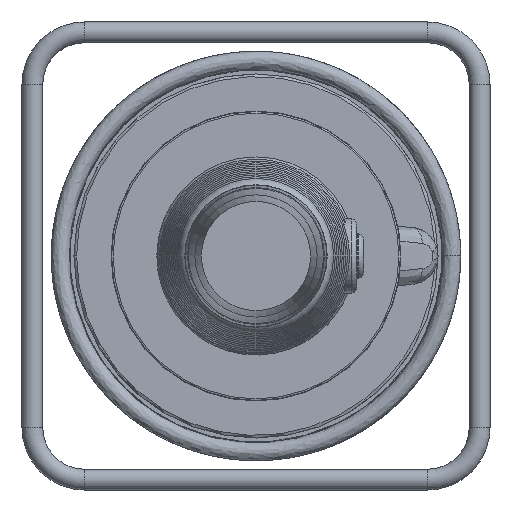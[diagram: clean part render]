
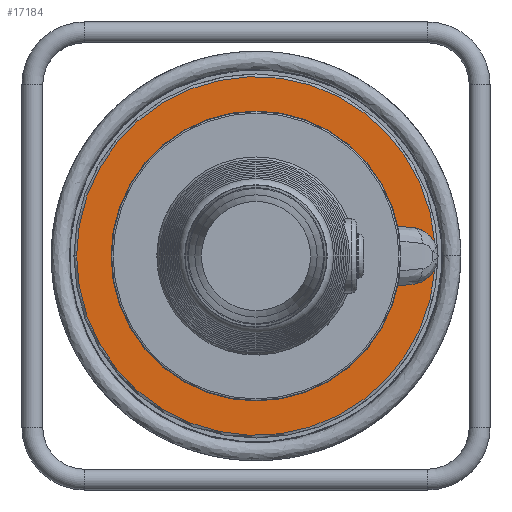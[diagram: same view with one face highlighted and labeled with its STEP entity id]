
A CAD part, left-side view. The second image highlights one B-rep face of the part: STEP entity #17184.
In plain terms, the highlighted planar face has unit normal (-1, 0, 0).
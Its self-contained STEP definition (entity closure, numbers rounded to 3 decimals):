
#821=PLANE('',#18087);
#1705=LINE('',#38449,#2648);
#1706=LINE('',#38456,#2649);
#2648=VECTOR('',#20884,10.);
#2649=VECTOR('',#20891,10.);
#3530=FACE_OUTER_BOUND('',#4576,.T.);
#4576=EDGE_LOOP('',(#14616,#14617,#14618,#14619,#14620,#14621,#14622,#14623,
#14624));
#5740=CIRCLE('',#17497,138.);
#6012=CIRCLE('',#18088,22.);
#6013=CIRCLE('',#18089,138.);
#6014=CIRCLE('',#18090,22.);
#6015=CIRCLE('',#18091,10.);
#6016=CIRCLE('',#18092,91.5);
#6017=CIRCLE('',#18093,10.);
#6515=VERTEX_POINT('',#22416);
#6518=VERTEX_POINT('',#22422);
#7792=VERTEX_POINT('',#38442);
#7793=VERTEX_POINT('',#38443);
#7794=VERTEX_POINT('',#38446);
#7795=VERTEX_POINT('',#38448);
#7796=VERTEX_POINT('',#38450);
#7797=VERTEX_POINT('',#38452);
#7798=VERTEX_POINT('',#38454);
#8213=EDGE_CURVE('',#6518,#6515,#5740,.T.);
#10120=EDGE_CURVE('',#7792,#7793,#6012,.T.);
#10121=EDGE_CURVE('',#6515,#7793,#6013,.T.);
#10122=EDGE_CURVE('',#6518,#7794,#6014,.T.);
#10123=EDGE_CURVE('',#7794,#7795,#1705,.T.);
#10124=EDGE_CURVE('',#7795,#7796,#6015,.T.);
#10125=EDGE_CURVE('',#7796,#7797,#6016,.T.);
#10126=EDGE_CURVE('',#7797,#7798,#6017,.T.);
#10127=EDGE_CURVE('',#7798,#7792,#1706,.T.);
#14616=ORIENTED_EDGE('',*,*,#10120,.T.);
#14617=ORIENTED_EDGE('',*,*,#10121,.F.);
#14618=ORIENTED_EDGE('',*,*,#8213,.F.);
#14619=ORIENTED_EDGE('',*,*,#10122,.T.);
#14620=ORIENTED_EDGE('',*,*,#10123,.T.);
#14621=ORIENTED_EDGE('',*,*,#10124,.T.);
#14622=ORIENTED_EDGE('',*,*,#10125,.T.);
#14623=ORIENTED_EDGE('',*,*,#10126,.T.);
#14624=ORIENTED_EDGE('',*,*,#10127,.T.);
#17184=ADVANCED_FACE('',(#3530),#821,.T.);
#17497=AXIS2_PLACEMENT_3D('',#22433,#18828,#18829);
#18087=AXIS2_PLACEMENT_3D('',#38441,#20876,#20877);
#18088=AXIS2_PLACEMENT_3D('',#38444,#20878,#20879);
#18089=AXIS2_PLACEMENT_3D('',#38445,#20880,#20881);
#18090=AXIS2_PLACEMENT_3D('',#38447,#20882,#20883);
#18091=AXIS2_PLACEMENT_3D('',#38451,#20885,#20886);
#18092=AXIS2_PLACEMENT_3D('',#38453,#20887,#20888);
#18093=AXIS2_PLACEMENT_3D('',#38455,#20889,#20890);
#18828=DIRECTION('center_axis',(1.,0.,0.));
#18829=DIRECTION('ref_axis',(0.,0.,
1.));
#20876=DIRECTION('center_axis',(-1.,0.,0.));
#20877=DIRECTION('ref_axis',(0.,1.,0.));
#20878=DIRECTION('center_axis',(1.,0.,0.));
#20879=DIRECTION('ref_axis',(0.,0.087,0.996));
#20880=DIRECTION('center_axis',(1.,0.,0.));
#20881=DIRECTION('ref_axis',(0.,0.,
1.));
#20882=DIRECTION('center_axis',(1.,0.,0.));
#20883=DIRECTION('ref_axis',(0.,0.087,0.996));
#20884=DIRECTION('',(0.,0.996,-0.087));
#20885=DIRECTION('center_axis',(-1.,0.,0.));
#20886=DIRECTION('ref_axis',(0.,0.087,0.996));
#20887=DIRECTION('center_axis',(1.,0.,0.));
#20888=DIRECTION('ref_axis',(0.,0.,
1.));
#20889=DIRECTION('center_axis',(-1.,0.,0.));
#20890=DIRECTION('ref_axis',(0.,0.934,-0.358));
#20891=DIRECTION('',(0.,-0.996,-0.087));
#22416=CARTESIAN_POINT('',(-31.471,219.707,0.));
#22422=CARTESIAN_POINT('',(-31.471,-55.937,-9.905));
#22433=CARTESIAN_POINT('Origin',(-31.471,81.707,0.));
#38441=CARTESIAN_POINT('Origin',(-31.471,81.707,114.75));
#38442=CARTESIAN_POINT('',(-31.471,-38.21,21.916));
#38443=CARTESIAN_POINT('',(-31.471,-55.937,9.905));
#38444=CARTESIAN_POINT('Origin',(-31.471,-36.293,0.));
#38445=CARTESIAN_POINT('Origin',(-31.471,81.707,0.));
#38446=CARTESIAN_POINT('',(-31.471,-38.21,-21.916));
#38447=CARTESIAN_POINT('Origin',(-31.471,-36.293,0.));
#38448=CARTESIAN_POINT('',(-31.471,-7.519,-24.601));
#38449=CARTESIAN_POINT('',(-31.471,15.36,-26.603));
#38450=CARTESIAN_POINT('',(-31.471,-6.377,-24.768));
#38451=CARTESIAN_POINT('Origin',(-31.471,-8.391,-34.563));
#38452=CARTESIAN_POINT('',(-31.471,-6.377,24.768));
#38453=CARTESIAN_POINT('Origin',(-31.471,81.707,0.));
#38454=CARTESIAN_POINT('',(-31.471,-7.519,24.601));
#38455=CARTESIAN_POINT('Origin',(-31.471,-8.391,34.563));
#38456=CARTESIAN_POINT('',(-31.471,40.669,28.817));
